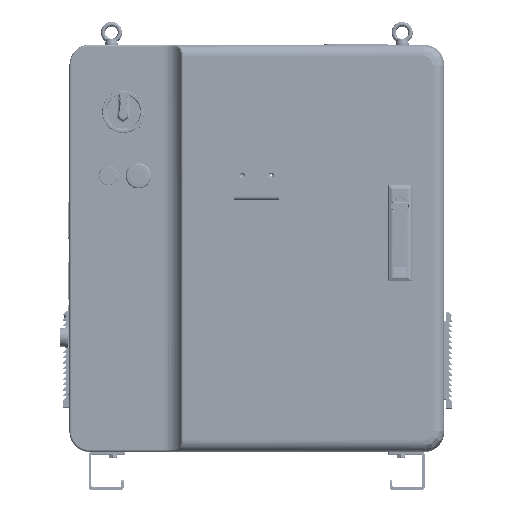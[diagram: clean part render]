
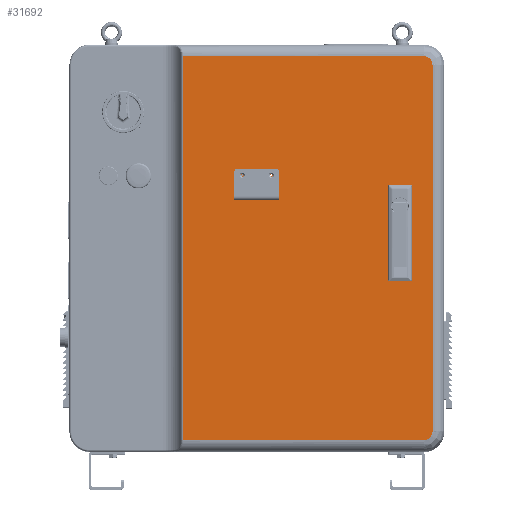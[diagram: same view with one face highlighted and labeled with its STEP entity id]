
A CAD part, top view. The second image highlights one B-rep face of the part: STEP entity #31692.
In plain terms, the highlighted planar face has unit normal (0, 0, 1).
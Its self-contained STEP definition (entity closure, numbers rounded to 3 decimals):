
#17904=FACE_BOUND('',#58008,.T.);
#17905=FACE_BOUND('',#58009,.T.);
#17906=FACE_BOUND('',#58010,.T.);
#17907=FACE_BOUND('',#58011,.T.);
#17908=FACE_BOUND('',#58012,.T.);
#17909=FACE_BOUND('',#58013,.T.);
#17910=FACE_BOUND('',#58014,.T.);
#23567=CIRCLE('',#209575,2.5);
#23569=CIRCLE('',#209578,2.5);
#23570=CIRCLE('',#209588,1.6);
#23578=CIRCLE('',#209601,13.5);
#23579=CIRCLE('',#209602,13.5);
#23580=CIRCLE('',#209603,1.6);
#31692=ADVANCED_FACE('',(#17904,#17905,#17906,#17907,#17908,#17909,#17910),
#40384,.T.);
#40384=PLANE('',#209604);
#58008=EDGE_LOOP('',(#85813,#85814,#85815,#85816,#85817,#85818));
#58009=EDGE_LOOP('',(#85819));
#58010=EDGE_LOOP('',(#85820));
#58011=EDGE_LOOP('',(#85821));
#58012=EDGE_LOOP('',(#85822));
#58013=EDGE_LOOP('',(#85823,#85824,#85825,#85826));
#58014=EDGE_LOOP('',(#85827,#85828,#85829,#85830));
#85813=ORIENTED_EDGE('',*,*,#149785,.T.);
#85814=ORIENTED_EDGE('',*,*,#149786,.T.);
#85815=ORIENTED_EDGE('',*,*,#149787,.T.);
#85816=ORIENTED_EDGE('',*,*,#149788,.T.);
#85817=ORIENTED_EDGE('',*,*,#149789,.T.);
#85818=ORIENTED_EDGE('',*,*,#149790,.T.);
#85819=ORIENTED_EDGE('',*,*,#149791,.F.);
#85820=ORIENTED_EDGE('',*,*,#149764,.F.);
#85821=ORIENTED_EDGE('',*,*,#149747,.F.);
#85822=ORIENTED_EDGE('',*,*,#149745,.F.);
#85823=ORIENTED_EDGE('',*,*,#149738,.F.);
#85824=ORIENTED_EDGE('',*,*,#149741,.F.);
#85825=ORIENTED_EDGE('',*,*,#149743,.F.);
#85826=ORIENTED_EDGE('',*,*,#149735,.F.);
#85827=ORIENTED_EDGE('',*,*,#149726,.F.);
#85828=ORIENTED_EDGE('',*,*,#149729,.F.);
#85829=ORIENTED_EDGE('',*,*,#149731,.F.);
#85830=ORIENTED_EDGE('',*,*,#149723,.F.);
#128388=VERTEX_POINT('',#305195);
#128391=VERTEX_POINT('',#305200);
#128393=VERTEX_POINT('',#305206);
#128395=VERTEX_POINT('',#305212);
#128396=VERTEX_POINT('',#305219);
#128399=VERTEX_POINT('',#305224);
#128401=VERTEX_POINT('',#305230);
#128403=VERTEX_POINT('',#305236);
#128405=VERTEX_POINT('',#305245);
#128407=VERTEX_POINT('',#305250);
#128416=VERTEX_POINT('',#305285);
#128432=VERTEX_POINT('',#305327);
#128433=VERTEX_POINT('',#305328);
#128434=VERTEX_POINT('',#305330);
#128435=VERTEX_POINT('',#305332);
#128436=VERTEX_POINT('',#305334);
#128437=VERTEX_POINT('',#305336);
#128438=VERTEX_POINT('',#305339);
#149723=EDGE_CURVE('',#128391,#128388,#173463,.T.);
#149726=EDGE_CURVE('',#128393,#128391,#173466,.T.);
#149729=EDGE_CURVE('',#128395,#128393,#173469,.T.);
#149731=EDGE_CURVE('',#128388,#128395,#173471,.T.);
#149735=EDGE_CURVE('',#128399,#128396,#173475,.T.);
#149738=EDGE_CURVE('',#128401,#128399,#173478,.T.);
#149741=EDGE_CURVE('',#128403,#128401,#173481,.T.);
#149743=EDGE_CURVE('',#128396,#128403,#173483,.T.);
#149745=EDGE_CURVE('',#128405,#128405,#23567,.T.);
#149747=EDGE_CURVE('',#128407,#128407,#23569,.T.);
#149764=EDGE_CURVE('',#128416,#128416,#23570,.T.);
#149785=EDGE_CURVE('',#128432,#128433,#173513,.T.);
#149786=EDGE_CURVE('',#128433,#128434,#173514,.T.);
#149787=EDGE_CURVE('',#128434,#128435,#173515,.T.);
#149788=EDGE_CURVE('',#128435,#128436,#23578,.T.);
#149789=EDGE_CURVE('',#128436,#128437,#173516,.T.);
#149790=EDGE_CURVE('',#128437,#128432,#23579,.T.);
#149791=EDGE_CURVE('',#128438,#128438,#23580,.T.);
#173463=LINE('',#305201,#191037);
#173466=LINE('',#305207,#191040);
#173469=LINE('',#305213,#191043);
#173471=LINE('',#305216,#191045);
#173475=LINE('',#305225,#191049);
#173478=LINE('',#305231,#191052);
#173481=LINE('',#305237,#191055);
#173483=LINE('',#305240,#191057);
#173513=LINE('',#305326,#191087);
#173514=LINE('',#305329,#191088);
#173515=LINE('',#305331,#191089);
#173516=LINE('',#305335,#191090);
#191037=VECTOR('',#239512,1.);
#191040=VECTOR('',#239517,1.);
#191043=VECTOR('',#239522,1.);
#191045=VECTOR('',#239526,1.);
#191049=VECTOR('',#239532,1.);
#191052=VECTOR('',#239537,1.);
#191055=VECTOR('',#239542,1.);
#191057=VECTOR('',#239546,1.);
#191087=VECTOR('',#239632,1.);
#191088=VECTOR('',#239633,1.);
#191089=VECTOR('',#239634,1.);
#191090=VECTOR('',#239637,1.);
#209575=AXIS2_PLACEMENT_3D('',#305244,#239551,#239552);
#209578=AXIS2_PLACEMENT_3D('',#305249,#239557,#239558);
#209588=AXIS2_PLACEMENT_3D('',#305284,#239593,#239594);
#209601=AXIS2_PLACEMENT_3D('',#305333,#239635,#239636);
#209602=AXIS2_PLACEMENT_3D('',#305337,#239638,#239639);
#209603=AXIS2_PLACEMENT_3D('',#305338,#239640,#239641);
#209604=AXIS2_PLACEMENT_3D('',#305340,#239642,#239643);
#239512=DIRECTION('',(-1.,0.,0.));
#239517=DIRECTION('',(0.,1.,0.));
#239522=DIRECTION('',(1.,0.,0.));
#239526=DIRECTION('',(0.,-1.,0.));
#239532=DIRECTION('',(-1.,0.,0.));
#239537=DIRECTION('',(0.,1.,0.));
#239542=DIRECTION('',(1.,0.,0.));
#239546=DIRECTION('',(0.,-1.,0.));
#239551=DIRECTION('',(0.,0.,1.));
#239552=DIRECTION('',(-1.,0.,0.));
#239557=DIRECTION('',(0.,0.,1.));
#239558=DIRECTION('',(-1.,0.,0.));
#239593=DIRECTION('',(0.,0.,1.));
#239594=DIRECTION('',(1.,0.,0.));
#239632=DIRECTION('',(-1.,0.,0.));
#239633=DIRECTION('',(0.,-1.,0.));
#239634=DIRECTION('',(1.,0.,0.));
#239635=DIRECTION('',(0.,0.,1.));
#239636=DIRECTION('',(1.,0.,0.));
#239637=DIRECTION('',(0.,1.,0.));
#239638=DIRECTION('',(0.,0.,1.));
#239639=DIRECTION('',(1.,0.,0.));
#239640=DIRECTION('',(0.,0.,1.));
#239641=DIRECTION('',(1.,0.,0.));
#239642=DIRECTION('',(0.,0.,1.));
#239643=DIRECTION('',(-1.,0.,0.));
#305195=CARTESIAN_POINT('',(-615.027,-395.709,448.957));
#305200=CARTESIAN_POINT('',(-591.527,-395.709,448.957));
#305201=CARTESIAN_POINT('',(-591.527,-395.709,448.957));
#305206=CARTESIAN_POINT('',(-591.527,-439.209,448.957));
#305207=CARTESIAN_POINT('',(-591.527,-439.209,448.957));
#305212=CARTESIAN_POINT('',(-615.027,-439.209,448.957));
#305213=CARTESIAN_POINT('',(-615.027,-439.209,448.957));
#305216=CARTESIAN_POINT('',(-615.027,-395.709,448.957));
#305219=CARTESIAN_POINT('',(-614.277,-311.009,448.957));
#305224=CARTESIAN_POINT('',(-592.277,-311.009,448.957));
#305225=CARTESIAN_POINT('',(-592.277,-311.009,448.957));
#305230=CARTESIAN_POINT('',(-592.277,-345.009,448.957));
#305231=CARTESIAN_POINT('',(-592.277,-345.009,448.957));
#305236=CARTESIAN_POINT('',(-614.277,-345.009,448.957));
#305237=CARTESIAN_POINT('',(-614.277,-345.009,448.957));
#305240=CARTESIAN_POINT('',(-614.277,-311.009,448.957));
#305244=CARTESIAN_POINT('',(-603.277,-351.509,448.957));
#305245=CARTESIAN_POINT('',(-605.777,-351.509,448.957));
#305249=CARTESIAN_POINT('',(-603.277,-304.509,448.957));
#305250=CARTESIAN_POINT('',(-605.777,-304.509,448.957));
#305284=CARTESIAN_POINT('',(-847.5,-280.09,448.957));
#305285=CARTESIAN_POINT('',(-845.9,-280.09,448.957));
#305326=CARTESIAN_POINT('',(-4887.246,-95.99,448.957));
#305327=CARTESIAN_POINT('',(-566.5,-95.99,448.957));
#305328=CARTESIAN_POINT('',(-939.431,-95.99,448.957));
#305329=CARTESIAN_POINT('',(-939.431,-689.99,448.957));
#305330=CARTESIAN_POINT('',(-939.431,-689.99,448.957));
#305331=CARTESIAN_POINT('',(-4887.246,-689.99,448.957));
#305332=CARTESIAN_POINT('',(-566.5,-689.99,448.957));
#305333=CARTESIAN_POINT('',(-566.5,-676.49,448.957));
#305334=CARTESIAN_POINT('',(-553.,-676.49,448.957));
#305335=CARTESIAN_POINT('',(-553.,-1110.097,448.957));
#305336=CARTESIAN_POINT('',(-553.,-109.49,448.957));
#305337=CARTESIAN_POINT('',(-566.5,-109.49,448.957));
#305338=CARTESIAN_POINT('',(-802.5,-280.09,448.957));
#305339=CARTESIAN_POINT('',(-800.9,-280.09,448.957));
#305340=CARTESIAN_POINT('',(-4887.246,-1110.097,448.957));
